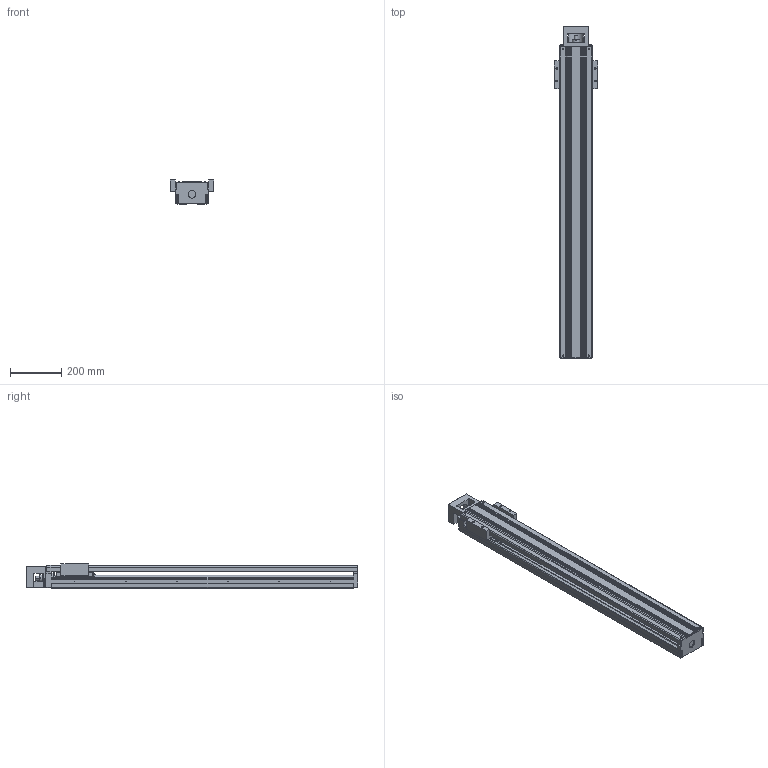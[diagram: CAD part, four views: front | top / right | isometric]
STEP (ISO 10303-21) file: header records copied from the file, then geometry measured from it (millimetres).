
FILE_DESCRIPTION(('no description'),'unknown implementation level');
FILE_NAME('KK13025P1180A1F0C00_FILE_7.stp',' ',('HIWIN GmbH'),('CADClick - KiM GmbH - www.kimweb.de'),'unknown preprocess','ACIS','unknown authorization');
FILE_SCHEMA(('automotive_design'));
Length unit declared in the file: millimetre
Products named in the file (2): KK130_FILE; KK13025P1180A1F0C00_FILE
Bounding box: 170 x 1298 x 94 mm (x, y, z)
Volume: 6011743.8 mm3; surface area: 1186566.6 mm2
Topology: 2 solids, 11 shells, 961 faces, 2430 edges, 1573 vertices
Faces by surface type: plane 587, cylinder 320, torus 46, cone 6, sphere 2
Entity records: 56814 total; most frequent: DIRECTION 5158, CARTESIAN_POINT 5072, STYLED_ITEM 4964, PRESENTATION_STYLE_ASSIGNMENT 4964, COLOUR_RGB 4964, ORIENTED_EDGE 4856, EDGE_CURVE 2428, CURVE_STYLE 2428
